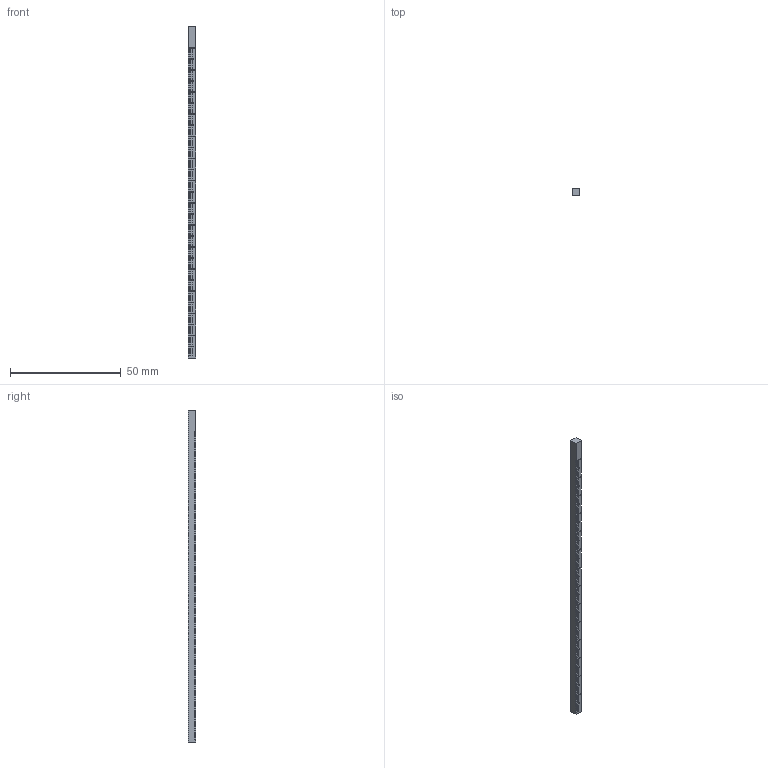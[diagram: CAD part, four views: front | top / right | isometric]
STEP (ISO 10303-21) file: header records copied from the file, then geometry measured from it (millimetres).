
FILE_DESCRIPTION(('FreeCAD Model'),'2;1');
FILE_NAME('Open CASCADE Shape Model','2025-11-08T15:47:42',(''),(''), 'Open CASCADE STEP processor 7.8','FreeCAD','Unknown');
FILE_SCHEMA(('AUTOMOTIVE_DESIGN { 1 0 10303 214 1 1 1 1 }'));
Length unit declared in the file: millimetre
Products named in the file (1): Depth Rod Body
Bounding box: 3.2 x 3.2 x 150 mm (x, y, z)
Volume: 1512.8 mm3; surface area: 2092.5 mm2
Topology: 1 solids, 1 shells, 566 faces, 1692 edges, 1128 vertices
Faces by surface type: plane 566
Entity records: 40654 total; most frequent: CARTESIAN_POINT 6771, DIRECTION 6210, LINE 5076, VECTOR 5076, ORIENTED_EDGE 3384, PCURVE 3384, DEFINITIONAL_REPRESENTATION 3384, EDGE_CURVE 1692
